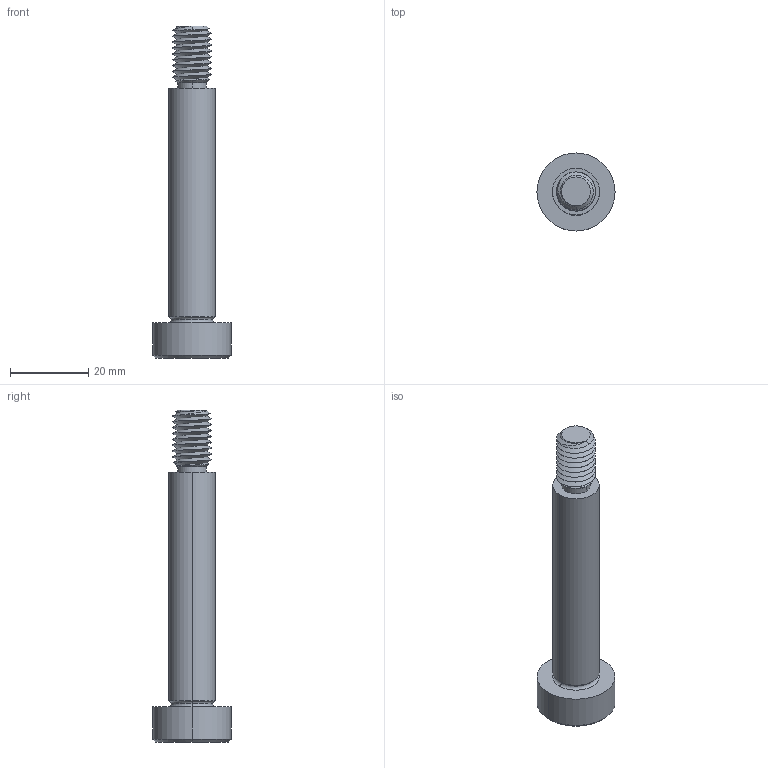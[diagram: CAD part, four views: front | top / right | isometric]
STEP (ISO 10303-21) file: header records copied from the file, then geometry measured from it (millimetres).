
FILE_DESCRIPTION (( 'STEP AP203' ), '1' );
FILE_NAME ('P0130.120-060-B2.step', '2021-11-09T22:08:44', ( '' ), ( '' ), 'SwSTEP 2.0', 'SolidWorks 2019', '' );
FILE_SCHEMA (( 'CONFIG_CONTROL_DESIGN' ));
Length unit declared in the file: millimetre
Products named in the file (1): P0130.120-060-B2
Bounding box: 20 x 20 x 85 mm (x, y, z)
Volume: 10275.2 mm3; surface area: 4382 mm2
Topology: 1 solids, 1 shells, 60 faces, 142 edges, 85 vertices
Faces by surface type: cylinder 23, plane 16, cone 15, torus 4, bspline 2
Entity records: 3534 total; most frequent: CARTESIAN_POINT 2187, ORIENTED_EDGE 280, DIRECTION 247, EDGE_CURVE 140, AXIS2_PLACEMENT_3D 99, VERTEX_POINT 85, EDGE_LOOP 63, ADVANCED_FACE 60
